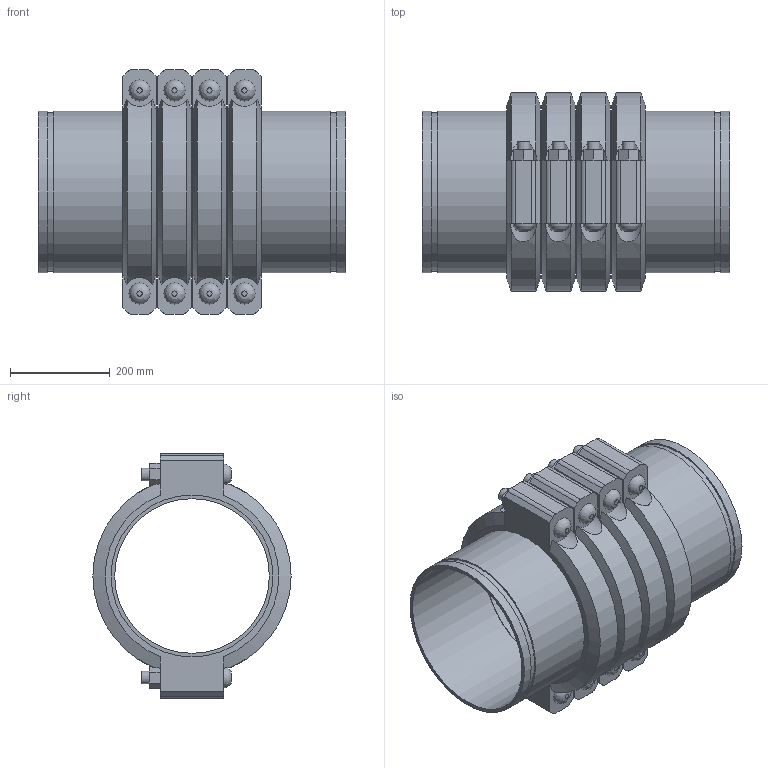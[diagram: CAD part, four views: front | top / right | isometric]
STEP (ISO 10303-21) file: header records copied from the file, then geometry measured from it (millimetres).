
FILE_DESCRIPTION(/* description */ ('VIC EXPANSION JOINT 4 COUPLINGS COMPRESSED STYLE 155 (OGS)','CAx-IF Rec.Pracs.---Representation and Presentation of Product Manufacturing Information (PMI)---4.0---2014-10-13'),/* implementation_level */ '2;1');
FILE_NAME(/* name */ 'C:\Users\kkamble\AppData\Roaming\Autodesk\ApplicationPlugins\Victaulic.Temp\A318\Victaulic_IPS_Expansion Joint_Compressed_4 Couplings_Style 155 (OGS)_12 (300).stp',/* time_stamp */ '2021-06-27T00:28:10+02:00',/* author */ ('kkamble'),/* organization */ ('Victaulic'),/* preprocessor_version */ 'ST-DEVELOPER v17.2',/* originating_system */ 'Autodesk Inventor 2019',/* authorisation */ '');
FILE_SCHEMA (('AP242_MANAGED_MODEL_BASED_3D_ENGINEERING_MIM_LF { 1 0 10303 442 1 1 4 }'));
Length unit declared in the file: inch
Products named in the file (4): 155-12.0; Nipple-12.0; Nipple-12.0_1; 077-4 Coup-12.0
Assembly tree (9 placements, depth 2):
  155-12.0
    Nipple-12.0  x2
    Nipple-12.0_1  x3
    077-4 Coup-12.0  x4
Bounding box: 615.95 x 397 x 488.95 mm (x, y, z)
Volume: 17552209.6 mm3; surface area: 2587412 mm2
Topology: 9 solids, 17 shells, 288 faces, 706 edges, 496 vertices
Faces by surface type: plane 166, cylinder 98, cone 16, bspline 8
Full cylindrical faces by diameter (mm): 25.4 x16, 27.432 x8, 309.677 x5, 318.287 x10, 323.85 x19
Entity records: 2947 total; most frequent: CARTESIAN_POINT 643, DIRECTION 455, ORIENTED_EDGE 398, EDGE_CURVE 199, AXIS2_PLACEMENT_3D 184, VERTEX_POINT 142, EDGE_LOOP 105, CIRCLE 92
